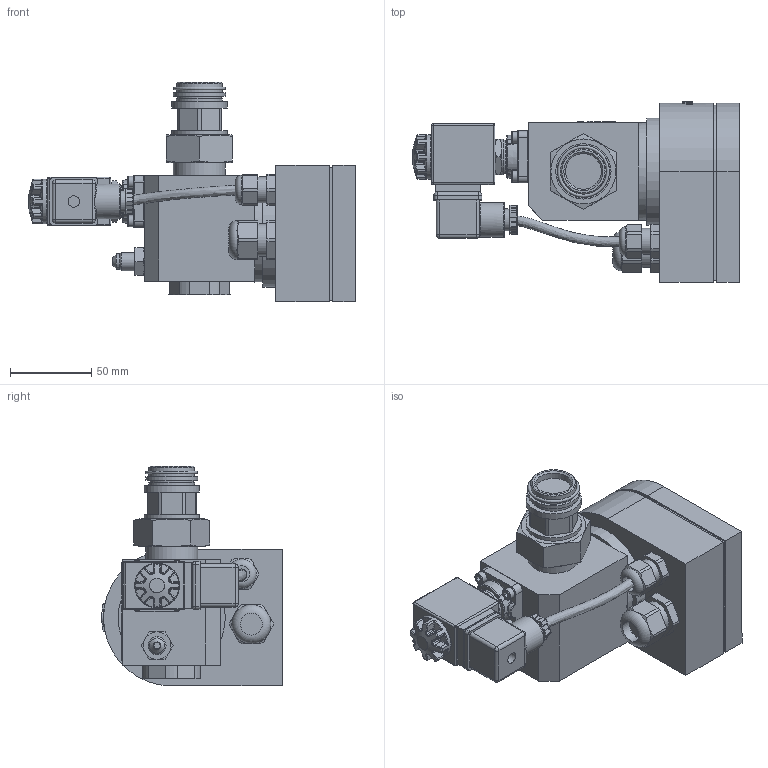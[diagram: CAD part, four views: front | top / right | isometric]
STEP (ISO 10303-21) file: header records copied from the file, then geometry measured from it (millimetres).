
FILE_DESCRIPTION(/* description */ (''),/* implementation_level */ '2;1');
FILE_NAME(/* name */ 'P:\ORE_ERM\ERM5-CDH-OC\ERM5-CDH-OC.stp',/* time_stamp */ '2015-07-01T11:03:35+02:00',/* author */ ('neufeld'),/* organization */ (''),/* preprocessor_version */ 'ST-DEVELOPER v15.2',/* originating_system */ 'Autodesk Inventor 2014',/* authorisation */ '');
FILE_SCHEMA (('AUTOMOTIVE_DESIGN { 1 0 10303 214 3 1 1 }'));
Products named in the file (1): ERM5-CDH-OC_AG-Kunde
Bounding box: 201.11 x 111 x 135.3 mm (x, y, z)
Volume: 894559.9 mm3; surface area: 93486.2 mm2
Topology: 3 solids, 3 shells, 2005 faces, 5093 edges, 3247 vertices
Faces by surface type: plane 945, bspline 589, cylinder 239, torus 113, cone 67, sphere 52
Full cylindrical faces by diameter (mm): 4 x1, 7 x5, 9.1 x1, 9.4 x1, 10 x1, 10.5 x1, 11.112 x1, 13.5 x2, 16 x1, 20 x2, 20.5 x1, 21.5 x1, 22 x2, 24 x1, 26.6 x1, 27.5 x1, 28 x1, 28.2 x1, 28.81 x1, 32 x1, 32.15 x1, 34 x2, 60 x1, 60.4 x1, 66 x1
Entity records: 73574 total; most frequent: CARTESIAN_POINT 28725, ORIENTED_EDGE 10008, DIRECTION 7374, EDGE_CURVE 5004, VERTEX_POINT 3209, LINE 2852, VECTOR 2852, AXIS2_PLACEMENT_3D 2261
